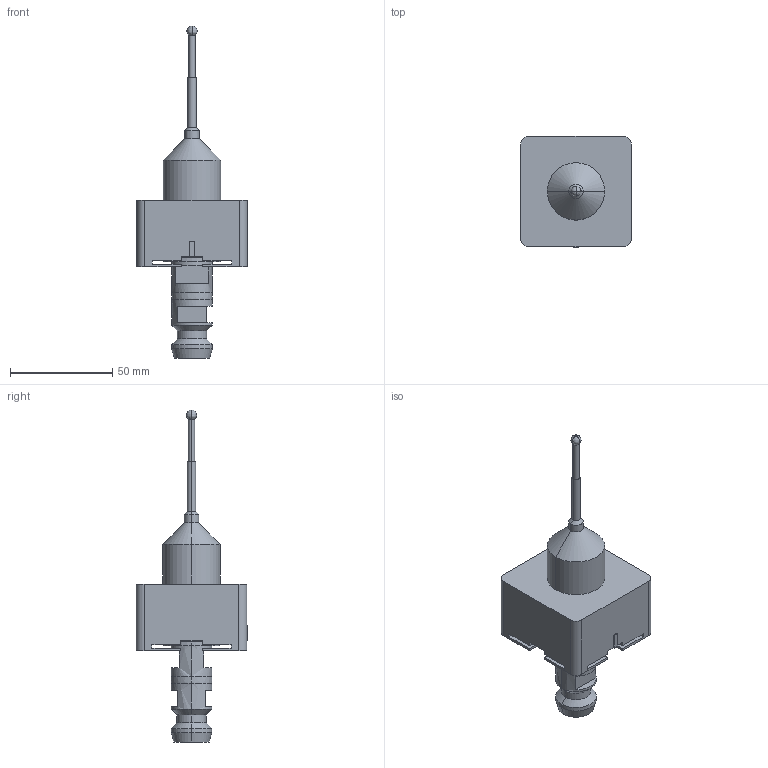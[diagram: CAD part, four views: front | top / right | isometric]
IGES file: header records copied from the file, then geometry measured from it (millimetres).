
Start section: 3D InterOp IGES (v. 2018 1.0.2), Spatial Corp. Copyright (c) 1999-2017.
Global section: file name: HER_2410_5.igs; native system: Spatial Corp.; preprocessor: 3D InterOp GENERIC/IGES 3.0; author: Noname; organization: Noname; date: 20191010.072352; units: metre
Bounding box: 54 x 54.5 x 162 mm (x, y, z)
Surface area: 25264.2 mm2 (no closed solid volume)
Topology: 0 solids, 0 shells, 161 faces, 790 edges, 786 vertices
Faces by surface type: extrusion 99, revolution 62
